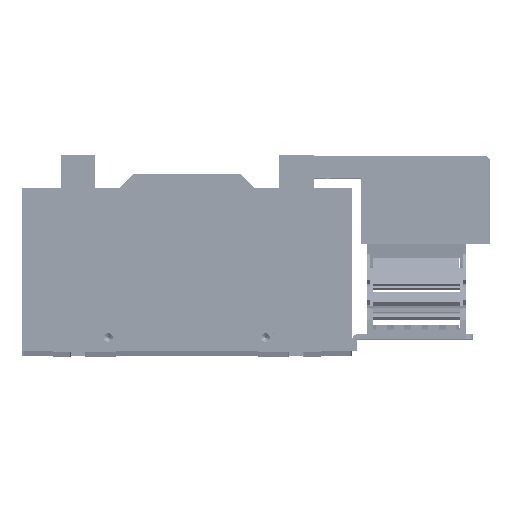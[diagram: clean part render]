
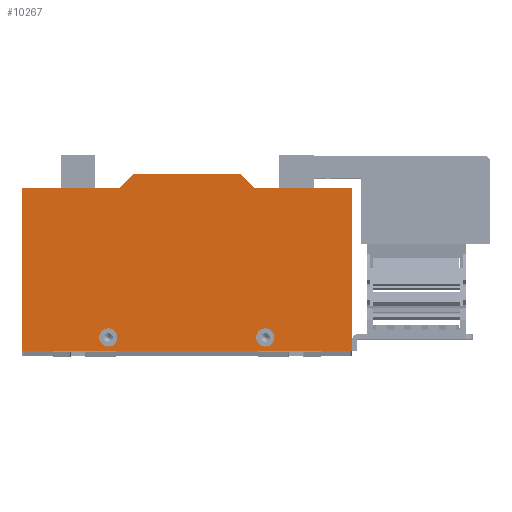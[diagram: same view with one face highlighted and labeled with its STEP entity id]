
A CAD part, top view. The second image highlights one B-rep face of the part: STEP entity #10267.
In plain terms, the highlighted planar face has unit normal (0, 0, 1) as drawn and (0, 0, -1) by its records, which use the part's own axes.
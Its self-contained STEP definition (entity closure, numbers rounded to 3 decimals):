
#9430 = VERTEX_POINT ( 'NONE', #33760 ) ;
#9445 = EDGE_CURVE ( 'NONE', #9430, #9546, #33747, .T. ) ;
#9546 = VERTEX_POINT ( 'NONE', #33902 ) ;
#9596 = EDGE_CURVE ( 'NONE', #9599, #9604, #33977, .T. ) ;
#9599 = VERTEX_POINT ( 'NONE', #33973 ) ;
#9604 = VERTEX_POINT ( 'NONE', #33963 ) ;
#9636 = VERTEX_POINT ( 'NONE', #34002 ) ;
#9692 = VERTEX_POINT ( 'NONE', #76580 ) ;
#9793 = EDGE_CURVE ( 'NONE', #9692, #9636, #76674, .T. ) ;
#9816 = VERTEX_POINT ( 'NONE', #76714 ) ;
#9835 = EDGE_CURVE ( 'NONE', #9816, #9599, #76769, .T. ) ;
#9930 = VERTEX_POINT ( 'NONE', #76862 ) ;
#9969 = VERTEX_POINT ( 'NONE', #76937 ) ;
#10008 = EDGE_CURVE ( 'NONE', #9969, #10108, #76959, .T. ) ;
#10108 = VERTEX_POINT ( 'NONE', #77058 ) ;
#10161 = EDGE_CURVE ( 'NONE', #9604, #9930, #77140, .T. ) ;
#10186 = VERTEX_POINT ( 'NONE', #77119 ) ;
#10189 = ORIENTED_EDGE ( 'NONE', *, *, #10190, .F. ) ;
#10190 = EDGE_CURVE ( 'NONE', #9969, #10186, #77118, .T. ) ;
#10193 = ORIENTED_EDGE ( 'NONE', *, *, #10008, .T. ) ;
#10199 = ORIENTED_EDGE ( 'NONE', *, *, #10201, .F. ) ;
#10201 = EDGE_CURVE ( 'NONE', #10203, #10108, #77184, .T. ) ;
#10203 = VERTEX_POINT ( 'NONE', #77180 ) ;
#10205 = ORIENTED_EDGE ( 'NONE', *, *, #10207, .F. ) ;
#10207 = EDGE_CURVE ( 'NONE', #9816, #10203, #77178, .T. ) ;
#10209 = ORIENTED_EDGE ( 'NONE', *, *, #9835, .T. ) ;
#10211 = ORIENTED_EDGE ( 'NONE', *, *, #9596, .T. ) ;
#10267 = ADVANCED_FACE ( 'NONE', ( #77191, #77190, #77189 ), #77188, .F. ) ;
#10269 = EDGE_LOOP ( 'NONE', ( #10270, #10280 ) ) ;
#10270 = ORIENTED_EDGE ( 'NONE', *, *, #10276, .F. ) ;
#10276 = EDGE_CURVE ( 'NONE', #9546, #9430, #77248, .T. ) ;
#10280 = ORIENTED_EDGE ( 'NONE', *, *, #9445, .F. ) ;
#10281 = EDGE_LOOP ( 'NONE', ( #10282, #10290 ) ) ;
#10282 = ORIENTED_EDGE ( 'NONE', *, *, #10285, .F. ) ;
#10285 = EDGE_CURVE ( 'NONE', #9636, #9692, #77243, .T. ) ;
#10290 = ORIENTED_EDGE ( 'NONE', *, *, #9793, .F. ) ;
#10293 = EDGE_LOOP ( 'NONE', ( #10295, #10297, #10189, #10193, #10199, #10205, #10209, #10211 ) ) ;
#10295 = ORIENTED_EDGE ( 'NONE', *, *, #10161, .T. ) ;
#10297 = ORIENTED_EDGE ( 'NONE', *, *, #10331, .F. ) ;
#10331 = EDGE_CURVE ( 'NONE', #10186, #9930, #77266, .T. ) ;
#33747 = CIRCLE ( 'NONE', #33816, 5.25 ) ;
#33760 = CARTESIAN_POINT ( 'NONE',  ( -120.191, 76.299, 0. ) ) ;
#33813 = DIRECTION ( 'NONE',  ( -1., 0., 0. ) ) ;
#33814 = DIRECTION ( 'NONE',  ( 0., 0., -1. ) ) ;
#33815 = CARTESIAN_POINT ( 'NONE',  ( -125.441, 76.299, 0. ) ) ;
#33816 = AXIS2_PLACEMENT_3D ( 'NONE', #33815, #33814, #33813 ) ;
#33902 = CARTESIAN_POINT ( 'NONE',  ( -130.691, 76.299, 0. ) ) ;
#33963 = CARTESIAN_POINT ( 'NONE',  ( 14.809, 84.299, 0. ) ) ;
#33973 = CARTESIAN_POINT ( 'NONE',  ( -175.191, 84.299, 0. ) ) ;
#33974 = DIRECTION ( 'NONE',  ( 1., 0., 0. ) ) ;
#33975 = VECTOR ( 'NONE', #33974, 1000. ) ;
#33976 = CARTESIAN_POINT ( 'NONE',  ( -175.191, 84.299, 0. ) ) ;
#33977 = LINE ( 'NONE', #33976, #33975 ) ;
#34002 = CARTESIAN_POINT ( 'NONE',  ( -40.191, 76.299, 0. ) ) ;
#76580 = CARTESIAN_POINT ( 'NONE',  ( -29.691, 76.299, 0. ) ) ;
#76669 = DIRECTION ( 'NONE',  ( -1., 0., 0. ) ) ;
#76671 = DIRECTION ( 'NONE',  ( 0., 0., -1. ) ) ;
#76672 = CARTESIAN_POINT ( 'NONE',  ( -34.941, 76.299, 0. ) ) ;
#76673 = AXIS2_PLACEMENT_3D ( 'NONE', #76672, #76671, #76669 ) ;
#76674 = CIRCLE ( 'NONE', #76673, 5.25 ) ;
#76714 = CARTESIAN_POINT ( 'NONE',  ( -175.191, -9.701, 0. ) ) ;
#76766 = DIRECTION ( 'NONE',  ( 0., 1., 0. ) ) ;
#76767 = VECTOR ( 'NONE', #76766, 1000. ) ;
#76768 = CARTESIAN_POINT ( 'NONE',  ( -175.191, -17.701, 0. ) ) ;
#76769 = LINE ( 'NONE', #76768, #76767 ) ;
#76862 = CARTESIAN_POINT ( 'NONE',  ( 14.809, -9.701, 0. ) ) ;
#76937 = CARTESIAN_POINT ( 'NONE',  ( -49.191, -17.701, 0. ) ) ;
#76956 = DIRECTION ( 'NONE',  ( -1., 0., 0. ) ) ;
#76957 = VECTOR ( 'NONE', #76956, 1000. ) ;
#76958 = CARTESIAN_POINT ( 'NONE',  ( 14.809, -17.701, 0. ) ) ;
#76959 = LINE ( 'NONE', #76958, #76957 ) ;
#77058 = CARTESIAN_POINT ( 'NONE',  ( -111.191, -17.701, 0. ) ) ;
#77115 = DIRECTION ( 'NONE',  ( 0.707, 0.707, 0. ) ) ;
#77116 = VECTOR ( 'NONE', #77115, 1000. ) ;
#77117 = CARTESIAN_POINT ( 'NONE',  ( -41.191, -9.701, 0. ) ) ;
#77118 = LINE ( 'NONE', #77117, #77116 ) ;
#77119 = CARTESIAN_POINT ( 'NONE',  ( -41.191, -9.701, 0. ) ) ;
#77137 = DIRECTION ( 'NONE',  ( 0., -1., 0. ) ) ;
#77138 = VECTOR ( 'NONE', #77137, 1000. ) ;
#77139 = CARTESIAN_POINT ( 'NONE',  ( 14.809, 84.299, 0. ) ) ;
#77140 = LINE ( 'NONE', #77139, #77138 ) ;
#77175 = DIRECTION ( 'NONE',  ( 1., 0., 0. ) ) ;
#77176 = VECTOR ( 'NONE', #77175, 1000. ) ;
#77177 = CARTESIAN_POINT ( 'NONE',  ( -119.191, -9.701, 0. ) ) ;
#77178 = LINE ( 'NONE', #77177, #77176 ) ;
#77180 = CARTESIAN_POINT ( 'NONE',  ( -119.191, -9.701, 0. ) ) ;
#77181 = DIRECTION ( 'NONE',  ( 0.707, -0.707, 0. ) ) ;
#77182 = VECTOR ( 'NONE', #77181, 1000. ) ;
#77183 = CARTESIAN_POINT ( 'NONE',  ( -111.191, -17.701, 0. ) ) ;
#77184 = LINE ( 'NONE', #77183, #77182 ) ;
#77185 = DIRECTION ( 'NONE',  ( 0., 0., 1. ) ) ;
#77186 = CARTESIAN_POINT ( 'NONE',  ( -175.191, 84.299, 0. ) ) ;
#77187 = AXIS2_PLACEMENT_3D ( 'NONE', #77186, #77185, #77254 ) ;
#77188 = PLANE ( 'NONE',  #77187 ) ;
#77189 = FACE_OUTER_BOUND ( 'NONE', #10293, .T. ) ;
#77190 = FACE_BOUND ( 'NONE', #10281, .T. ) ;
#77191 = FACE_BOUND ( 'NONE', #10269, .T. ) ;
#77239 = DIRECTION ( 'NONE',  ( -1., 0., 0. ) ) ;
#77240 = DIRECTION ( 'NONE',  ( 0., 0., -1. ) ) ;
#77241 = CARTESIAN_POINT ( 'NONE',  ( -34.941, 76.299, 0. ) ) ;
#77242 = AXIS2_PLACEMENT_3D ( 'NONE', #77241, #77240, #77239 ) ;
#77243 = CIRCLE ( 'NONE', #77242, 5.25 ) ;
#77244 = DIRECTION ( 'NONE',  ( -1., 0., 0. ) ) ;
#77245 = DIRECTION ( 'NONE',  ( 0., 0., -1. ) ) ;
#77246 = CARTESIAN_POINT ( 'NONE',  ( -125.441, 76.299, 0. ) ) ;
#77247 = AXIS2_PLACEMENT_3D ( 'NONE', #77246, #77245, #77244 ) ;
#77248 = CIRCLE ( 'NONE', #77247, 5.25 ) ;
#77254 = DIRECTION ( 'NONE',  ( 1., 0., 0. ) ) ;
#77262 = DIRECTION ( 'NONE',  ( 1., 0., 0. ) ) ;
#77263 = VECTOR ( 'NONE', #77262, 1000. ) ;
#77265 = CARTESIAN_POINT ( 'NONE',  ( 14.809, -9.701, 0. ) ) ;
#77266 = LINE ( 'NONE', #77265, #77263 ) ;
